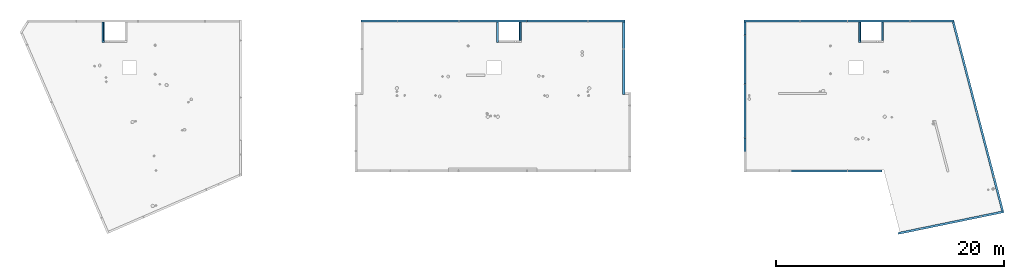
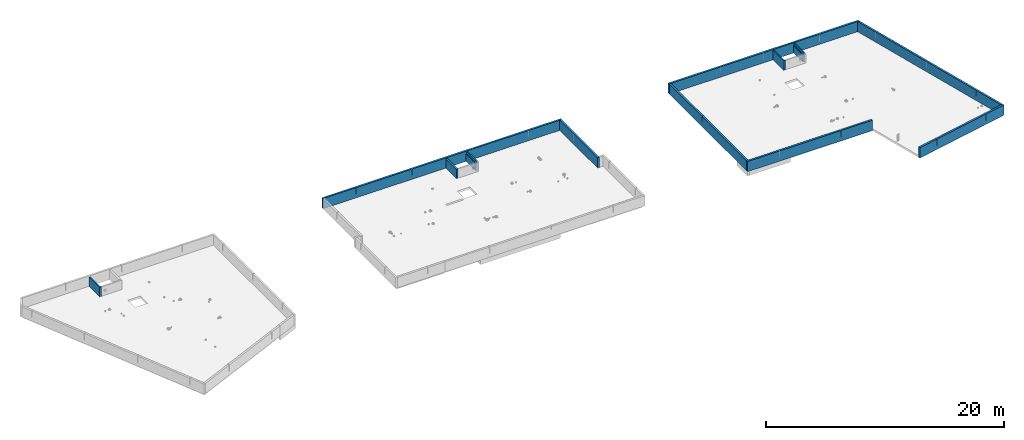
# One storey, part 2 of 12: 12 walls.
"""IFC2X3 building model written with IfcOpenShell, lengths in centimetres."""

from ifc_helpers import new_model, entity, si_unit, converted_unit, derived_unit, direction, frame, frame_2d, origin, place, context, subcontext, project, spatial, polyline, rectangle, outline, extrude, clip, bounded_halfspace, faceted_brep, material, layer, layer_set, layer_usage, type_object, element, save


model = new_model("IFC2X3")

# Units and contexts
model_context = context("Model", 3, precision=0.001, world=origin(), true_north=direction((6.12303176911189e-17, 1.0)))
body_context = subcontext(model_context, "Body", "Model", "MODEL_VIEW")
ifc_project = project(units=[si_unit("LENGTHUNIT", "METRE", prefix="CENTI"), si_unit("AREAUNIT", "SQUARE_METRE"), si_unit("VOLUMEUNIT", "CUBIC_METRE"), converted_unit("PLANEANGLEUNIT", "DEGREE", entity("IfcRatioMeasure", 0.0174532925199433), si_unit("PLANEANGLEUNIT", "RADIAN"), dimensions=[0, 0, 0, 0, 0, 0, 0]), si_unit("MASSUNIT", "GRAM", prefix="KILO"), derived_unit("MASSDENSITYUNIT", [(si_unit("MASSUNIT", "GRAM", prefix="KILO"), 1), (si_unit("LENGTHUNIT", "METRE"), -3)]), si_unit("TIMEUNIT", "SECOND"), si_unit("FREQUENCYUNIT", "HERTZ"), si_unit("THERMODYNAMICTEMPERATUREUNIT", "DEGREE_CELSIUS"), derived_unit("THERMALTRANSMITTANCEUNIT", [(si_unit("MASSUNIT", "GRAM", prefix="KILO"), 1), (si_unit("THERMODYNAMICTEMPERATUREUNIT", "KELVIN"), -1), (si_unit("TIMEUNIT", "SECOND"), -3)]), derived_unit("VOLUMETRICFLOWRATEUNIT", [(si_unit("LENGTHUNIT", "METRE"), 3), (si_unit("TIMEUNIT", "SECOND"), -1)]), si_unit("ELECTRICCURRENTUNIT", "AMPERE"), si_unit("ELECTRICVOLTAGEUNIT", "VOLT"), si_unit("POWERUNIT", "WATT"), si_unit("FORCEUNIT", "NEWTON"), si_unit("ILLUMINANCEUNIT", "LUX"), si_unit("LUMINOUSFLUXUNIT", "LUMEN"), si_unit("LUMINOUSINTENSITYUNIT", "CANDELA"), derived_unit("USERDEFINED", [(si_unit("MASSUNIT", "GRAM", prefix="KILO"), -1), (si_unit("LENGTHUNIT", "METRE"), -2), (si_unit("TIMEUNIT", "SECOND"), 3), (si_unit("LUMINOUSFLUXUNIT", "LUMEN"), 1)]), derived_unit("LINEARVELOCITYUNIT", [(si_unit("LENGTHUNIT", "METRE"), 1), (si_unit("TIMEUNIT", "SECOND"), -1)]), si_unit("PRESSUREUNIT", "PASCAL"), derived_unit("USERDEFINED", [(si_unit("LENGTHUNIT", "METRE"), -2), (si_unit("MASSUNIT", "GRAM", prefix="KILO"), 1), (si_unit("TIMEUNIT", "SECOND"), -2)])], contexts=[model_context])

# Site, building, storey
site_placement = place(None, origin())
site = spatial("IfcSite", under=ifc_project, at=site_placement, Name="Default", CompositionType="ELEMENT")
building_placement = place(site_placement, origin())
building = spatial("IfcBuilding", under=site, at=building_placement, Name="CAGE 03", CompositionType="ELEMENT")
storey_placement = place(building_placement, frame((0.0, 0.0, 1690.0)))
storey = spatial("IfcBuildingStorey", under=building, at=storey_placement, Name="R+6", CompositionType="ELEMENT", Elevation=1690.0)

# Walls
ifc_material_1 = material(Name="Béton, C25/30")
ifc_layer_1 = layer(ifc_material_1, 18.0)
ifc_layer_set_1 = layer_set([ifc_layer_1], Name="Mur de base:Voile BA 18")
ifc_layer_usage_1 = layer_usage(ifc_layer_set_1, "AXIS2", "POSITIVE", -9.0)
wall_type_1 = type_object("IfcWallType", Name="Mur de base:Voile BA 18", PredefinedType="STANDARD", material=ifc_layer_set_1)
wall_1_placement = place(storey_placement, frame((8239.36582014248, 5119.6606660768, 0.0), z_axis=(0.0, 0.0, 1.0), x_axis=(-1.0, 0.0, 0.0)))
element("IfcWallStandardCase", 1, at=wall_1_placement, inside=storey, type_object=wall_type_1, material=ifc_layer_usage_1, Name="Mur de base:Voile BA 18", ObjectType="Mur de base:Voile BA 18", context=body_context, shape_type="Clipping", body=[
    clip(clip(clip(clip(extrude(rectangle(XDim=2316.0, YDim=17.9999999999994, at=frame_2d((1158.0, 2.39808173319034e-14), x_axis=(-1.0, 0.0))), origin(), (0.0, 0.0, 1.0), 105.0), bounded_halfspace(frame((1994.0, -9.0, 40.0), z_axis=(0.0, 0.0, -1.0), x_axis=(0.0, -1.0, 0.0)), True, frame((1994.0, -9.0, 40.0), z_axis=(0.0, 0.0, -1.0), x_axis=(0.0, -1.0, 0.0)), polyline([(0.0, 0.0), (0.0, 2.0), (-18.0, 2.0), (-18.0, 0.0), (0.0, 0.0)]))), bounded_halfspace(frame((1456.0, -9.0, 40.0), z_axis=(0.0, 0.0, -1.0), x_axis=(0.0, -1.0, 0.0)), True, frame((1456.0, -9.0, 40.0), z_axis=(0.0, 0.0, -1.0), x_axis=(0.0, -1.0, 0.0)), polyline([(0.0, 0.0), (0.0, 2.0), (-18.0, 2.0), (-18.0, 0.0), (0.0, 0.0)]))), bounded_halfspace(frame((862.0, -9.0, 40.0), z_axis=(0.0, 0.0, -1.0), x_axis=(0.0, -1.0, 0.0)), True, frame((862.0, -9.0, 40.0), z_axis=(0.0, 0.0, -1.0), x_axis=(0.0, -1.0, 0.0)), polyline([(0.0, 0.0), (0.0, 2.0), (-18.0, 2.0), (-18.0, 0.0), (0.0, 0.0)]))), bounded_halfspace(frame((323.0, -9.0, 40.0), z_axis=(0.0, 0.0, -1.0), x_axis=(0.0, -1.0, 0.0)), True, frame((323.0, -9.0, 40.0), z_axis=(0.0, 0.0, -1.0), x_axis=(0.0, -1.0, 0.0)), polyline([(0.0, 0.0), (0.0, 2.0), (-18.0, 2.0), (-18.0, 0.0), (0.0, 0.0)]))),
])
ifc_layer_usage_2 = layer_usage(ifc_layer_set_1, "AXIS2", "POSITIVE", -9.0)
wall_2_placement = place(storey_placement, frame((8230.36582014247, 4474.6606660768, 0.0), z_axis=(0.0, 0.0, 1.0), x_axis=(0.0, 1.0, 0.0)))
element("IfcWallStandardCase", 2, at=wall_2_placement, inside=storey, type_object=wall_type_1, material=ifc_layer_usage_2, Name="Mur de base:Voile BA 18", ObjectType="Mur de base:Voile BA 18", context=body_context, shape_type="Clipping", body=[
    clip(extrude(rectangle(XDim=636.000000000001, YDim=17.9999999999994, at=frame_2d((318.0, 9.41469124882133e-14), x_axis=(-1.0, 0.0))), origin(), (0.0, 0.0, 1.0), 105.0), bounded_halfspace(frame((400.499999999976, -9.0, 40.0), z_axis=(0.0, 0.0, -1.0), x_axis=(0.0, -1.0, 0.0)), True, frame((400.499999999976, -9.0, 40.0), z_axis=(0.0, 0.0, -1.0), x_axis=(0.0, -1.0, 0.0)), polyline([(0.0, 0.0), (0.0, 2.0), (-18.0, 2.0), (-18.0, 0.0), (0.0, 0.0)]))),
])
ifc_layer_usage_3 = layer_usage(ifc_layer_set_1, "AXIS2", "POSITIVE", -9.0)
wall_3_placement = place(storey_placement, frame((9284.36582014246, 3805.6606660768, 0.0)))
element("IfcWallStandardCase", 3, at=wall_3_placement, inside=storey, type_object=wall_type_1, material=ifc_layer_usage_3, Name="Mur de base:Voile BA 18", ObjectType="Mur de base:Voile BA 18", context=body_context, shape_type="Clipping", body=[
    clip(clip(extrude(rectangle(XDim=1212.65851242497, YDim=18.0000000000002, at=frame_2d((606.329256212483, -8.17124146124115e-14), x_axis=(-1.0, 0.0))), origin(), (0.0, 0.0, 1.0), 105.0), bounded_halfspace(frame((909.0, 9.0, 40.0), z_axis=(0.0, 0.0, -1.0), x_axis=(0.0, 1.0, 0.0)), True, frame((909.0, 9.0, 40.0), z_axis=(0.0, 0.0, -1.0), x_axis=(0.0, 1.0, 0.0)), polyline([(0.0, 0.0), (0.0, 2.0), (-18.0, 2.0), (-18.0, 0.0), (0.0, 0.0)]))), bounded_halfspace(frame((309.0, 9.0, 40.0), z_axis=(0.0, 0.0, -1.0), x_axis=(0.0, 1.0, 0.0)), True, frame((309.0, 9.0, 40.0), z_axis=(0.0, 0.0, -1.0), x_axis=(0.0, 1.0, 0.0)), polyline([(0.0, 0.0), (0.0, 2.0), (-18.0, 2.0), (-18.0, 0.0), (0.0, 0.0)]))),
])
ifc_layer_usage_4 = layer_usage(ifc_layer_set_1, "AXIS2", "POSITIVE", -9.0)
wall_4_placement = place(storey_placement, frame((11131.0782797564, 5119.66066607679, 0.0), z_axis=(0.0, 0.0, 1.0), x_axis=(-1.0, 0.0, 0.0)))
element("IfcWallStandardCase", 4, at=wall_4_placement, inside=storey, type_object=wall_type_1, material=ifc_layer_usage_4, Name="Mur de base:Voile BA 18", ObjectType="Mur de base:Voile BA 18", context=body_context, shape_type="Clipping", body=[
    clip(clip(clip(extrude(outline(polyline([(1846.71245961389, -9.0), (1846.71245961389, 9.0), (1828.71245961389, 9.0), (1111.71245961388, 9.0), (838.712459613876, 9.0), (820.712459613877, 9.0), (640.712459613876, 9.0), (631.712459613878, 9.0), (622.712459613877, 9.0), (18.603690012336, 9.0), (0.0, 9.0), (4.70077462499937, -9.0), (631.712459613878, -9.0), (1111.71245961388, -9.0), (1846.71245961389, -9.0)])), origin(), (0.0, 0.0, 1.0), 105.0), bounded_halfspace(frame((1354.7124596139, -9.0, 40.0), z_axis=(0.0, 0.0, -1.0), x_axis=(0.0, -1.0, 0.0)), True, frame((1354.7124596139, -9.0, 40.0), z_axis=(0.0, 0.0, -1.0), x_axis=(0.0, -1.0, 0.0)), polyline([(0.0, 0.0), (0.0, 2.0), (-18.0, 2.0), (-18.0, 0.0), (0.0, 0.0)]))), bounded_halfspace(frame((937.712459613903, -9.0, 40.0), z_axis=(0.0, 0.0, -1.0), x_axis=(0.0, -1.0, 0.0)), True, frame((937.712459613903, -9.0, 40.0), z_axis=(0.0, 0.0, -1.0), x_axis=(0.0, -1.0, 0.0)), polyline([(0.0, 0.0), (0.0, 2.0), (-18.0, 2.0), (-18.0, 0.0), (0.0, 0.0)]))), bounded_halfspace(frame((390.712459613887, -9.0, 40.0), z_axis=(0.0, 0.0, -1.0), x_axis=(0.0, -1.0, 0.0)), True, frame((390.712459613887, -9.0, 40.0), z_axis=(0.0, 0.0, -1.0), x_axis=(0.0, -1.0, 0.0)), polyline([(0.0, 0.0), (0.0, 2.0), (-18.0, 2.0), (-18.0, 0.0), (0.0, 0.0)]))),
])
ifc_layer_usage_5 = layer_usage(ifc_layer_set_1, "AXIS2", "POSITIVE", -9.0)
wall_5_placement = place(storey_placement, frame((9293.36582014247, 5110.66066607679, 0.0), z_axis=(0.0, 0.0, 1.0), x_axis=(0.0, -1.0, 0.0)))
element("IfcWallStandardCase", 5, at=wall_5_placement, inside=storey, type_object=wall_type_1, material=ifc_layer_usage_5, Name="Mur de base:Voile BA 18", ObjectType="Mur de base:Voile BA 18", context=body_context, shape_type="Clipping", body=[
    clip(clip(clip(extrude(rectangle(XDim=1296.0, YDim=17.9999999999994, at=frame_2d((648.0, 2.1316282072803e-13), x_axis=(-1.0, 0.0))), origin(), (0.0, 0.0, 1.0), 105.0), bounded_halfspace(frame((1014.0, 9.0, 40.0), z_axis=(0.0, 0.0, -1.0), x_axis=(0.0, 1.0, 0.0)), True, frame((1014.0, 9.0, 40.0), z_axis=(0.0, 0.0, -1.0), x_axis=(0.0, 1.0, 0.0)), polyline([(0.0, 0.0), (0.0, 2.0), (-18.0, 2.0), (-18.0, 0.0), (0.0, 0.0)]))), bounded_halfspace(frame((544.0, 9.0, 40.0), z_axis=(0.0, 0.0, -1.0), x_axis=(0.0, 1.0, 0.0)), True, frame((544.0, 9.0, 40.0), z_axis=(0.0, 0.0, -1.0), x_axis=(0.0, 1.0, 0.0)), polyline([(0.0, 0.0), (0.0, 2.0), (-18.0, 2.0), (-18.0, 0.0), (0.0, 0.0)]))), bounded_halfspace(frame((115.0, 9.0, 40.0), z_axis=(0.0, 0.0, -1.0), x_axis=(0.0, 1.0, 0.0)), True, frame((115.0, 9.0, 40.0), z_axis=(0.0, 0.0, -1.0), x_axis=(0.0, 1.0, 0.0)), polyline([(0.0, 0.0), (0.0, 2.0), (-18.0, 2.0), (-18.0, 0.0), (0.0, 0.0)]))),
])
ifc_layer_usage_6 = layer_usage(ifc_layer_set_1, "AXIS2", "NEGATIVE", 9.0)
wall_6_placement = place(storey_placement, frame((11554.520882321, 3453.61460927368, 0.0), z_axis=(0.0, 0.0, 1.0), x_axis=(-0.252679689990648, 0.967549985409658, 0.0)))
element("IfcWallStandardCase", 6, at=wall_6_placement, inside=storey, type_object=wall_type_1, material=ifc_layer_usage_6, Name="Mur de base:Voile BA 18", ObjectType="Mur de base:Voile BA 18", context=body_context, shape_type="Clipping", body=[
    clip(clip(clip(extrude(outline(polyline([(1710.27023362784, -9.0), (1714.97100825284, 9.0), (0.940291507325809, 9.0), (0.0, -9.0), (1710.27023362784, -9.0)])), origin(), (0.0, 0.0, 1.0), 105.0), bounded_halfspace(frame((1496.4684546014, -9.0, 40.0), z_axis=(0.0, 0.0, -1.0), x_axis=(0.0, -1.0, 0.0)), True, frame((1496.4684546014, -9.0, 40.0), z_axis=(0.0, 0.0, -1.0), x_axis=(0.0, -1.0, 0.0)), polyline([(0.0, 0.0), (0.0, 2.0), (-18.0, 2.0), (-18.0, 0.0), (0.0, 0.0)]))), bounded_halfspace(frame((894.468454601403, -9.0, 40.0), z_axis=(0.0, 0.0, -1.0), x_axis=(0.0, -1.0, 0.0)), True, frame((894.468454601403, -9.0, 40.0), z_axis=(0.0, 0.0, -1.0), x_axis=(0.0, -1.0, 0.0)), polyline([(0.0, 0.0), (0.0, 2.0), (-18.0, 2.0), (-18.0, 0.0), (0.0, 0.0)]))), bounded_halfspace(frame((303.468454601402, -9.0, 40.0), z_axis=(0.0, 0.0, -1.0), x_axis=(0.0, -1.0, 0.0)), True, frame((303.468454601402, -9.0, 40.0), z_axis=(0.0, 0.0, -1.0), x_axis=(0.0, -1.0, 0.0)), polyline([(0.0, 0.0), (0.0, 2.0), (-18.0, 2.0), (-18.0, 0.0), (0.0, 0.0)]))),
])
ifc_material_2 = material(Name="Béton, panneaux préfa 30/37")
ifc_layer_2 = layer(ifc_material_2, 5.5)
ifc_layer_3 = layer(ifc_material_1, 7.0)
ifc_layer_4 = layer(ifc_material_2, 5.5)
ifc_layer_set_2 = layer_set([ifc_layer_2, ifc_layer_3, ifc_layer_4], Name="Mur de base:premur 18")
ifc_layer_usage_7 = layer_usage(ifc_layer_set_2, "AXIS2", "POSITIVE", -9.0)
wall_type_2 = type_object("IfcWallType", Name="Mur de base:premur 18", PredefinedType="NOTDEFINED")
wall_7_placement = place(storey_placement, frame((10637.7468620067, 3255.95402323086, 0.0), z_axis=(0.0, 0.0, 1.0), x_axis=(0.979414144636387, 0.201861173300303, 0.0)))
element("IfcWallStandardCase", 7, at=wall_7_placement, inside=storey, type_object=wall_type_2, material=ifc_layer_usage_7, Name="Mur de base:premur 18", ObjectType="Mur de base:premur 18", context=body_context, shape_type="Clipping", body=[
    clip(clip(extrude(rectangle(XDim=946.789185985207, YDim=18.0, at=frame_2d((473.394592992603, -1.36779476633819e-13), x_axis=(-1.0, 0.0))), origin(), (0.0, 0.0, 1.0), 105.0), bounded_halfspace(frame((745.789185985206, 9.0, 40.0), z_axis=(0.0, 0.0, -1.0), x_axis=(0.0, 1.0, 0.0)), True, frame((745.789185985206, 9.0, 40.0), z_axis=(0.0, 0.0, -1.0), x_axis=(0.0, 1.0, 0.0)), polyline([(0.0, 0.0), (0.0, 2.0), (-18.0, 2.0), (-18.0, 0.0), (0.0, 0.0)]))), bounded_halfspace(frame((195.789185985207, 9.0, 40.0), z_axis=(0.0, 0.0, -1.0), x_axis=(0.0, 1.0, 0.0)), True, frame((195.789185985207, 9.0, 40.0), z_axis=(0.0, 0.0, -1.0), x_axis=(0.0, 1.0, 0.0)), polyline([(0.0, 0.0), (0.0, 2.0), (-18.0, 2.0), (-18.0, 0.0), (0.0, 0.0)]))),
])
ifc_layer_usage_8 = layer_usage(ifc_layer_set_2, "AXIS2", "POSITIVE", -9.0)
wall_8_placement = place(storey_placement, frame((7124.36582014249, 5110.6606660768, 0.0), z_axis=(0.0, 0.0, 1.0), x_axis=(0.0, -1.0, 0.0)))
element("IfcWallStandardCase", 8, at=wall_8_placement, inside=storey, type_object=wall_type_2, material=ifc_layer_usage_8, Name="Mur de base:premur 18", ObjectType="Mur de base:premur 18", context=body_context, shape_type="SweptSolid", body=[
    extrude(rectangle(XDim=178.0, YDim=17.9999999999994, at=frame_2d((89.0000000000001, -1.91846538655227e-13), x_axis=(-1.0, 0.0))), origin(), (0.0, 0.0, 1.0), 95.0000000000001),
])
ifc_layer_usage_9 = layer_usage(ifc_layer_set_2, "AXIS2", "POSITIVE", -9.0)
wall_9_placement = place(storey_placement, frame((7322.36582014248, 4950.6606660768, 0.0), z_axis=(0.0, 0.0, 1.0), x_axis=(0.0, 1.0, 0.0)))
element("IfcWallStandardCase", 9, at=wall_9_placement, inside=storey, type_object=wall_type_2, material=ifc_layer_usage_9, Name="Mur de base:premur 18", ObjectType="Mur de base:premur 18", context=body_context, shape_type="Clipping", body=[
    clip(clip(extrude(rectangle(XDim=159.999999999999, YDim=17.9999999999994, at=frame_2d((79.9999999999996, 1.77635683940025e-13), x_axis=(-1.0, 0.0))), origin(), (0.0, 0.0, 1.0), 95.0000000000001), bounded_halfspace(frame((0.0, 3.50000000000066, 75.0), z_axis=(0.0, 0.0, -1.0), x_axis=(-1.0, 0.0, 0.0)), True, frame((0.0, 3.50000000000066, 75.0), z_axis=(0.0, 0.0, -1.0), x_axis=(-1.0, 0.0, 0.0)), polyline([(0.0, 0.0), (0.0, 5.49999999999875), (-160.0, 5.49999999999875), (-160.0, 0.0), (0.0, 0.0)]))), bounded_halfspace(frame((160.0, 3.50000000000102, 75.0), z_axis=(0.0, -1.0, 0.0), x_axis=(0.0, 0.0, 1.0)), True, frame((160.0, 3.50000000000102, 75.0), z_axis=(0.0, -1.0, 0.0), x_axis=(0.0, 0.0, 1.0)), polyline([(0.0, 0.0), (20.0, 0.0), (20.0, 160.0), (0.0, 160.0), (0.0, 0.0)]))),
])
wall_10_placement = place(storey_placement, frame((10301.3658201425, 5110.66066607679, 0.0), z_axis=(0.0, 0.0, 1.0), x_axis=(0.0, -1.0, 0.0)))
element("IfcWall", 10, at=wall_10_placement, inside=storey, type_object=wall_type_2, Name="Mur de base:premur 18", ObjectType="Mur de base:premur 18", context=body_context, shape_type="Brep", body=[
    faceted_brep([(0.0, -9.0, 0.0), (172.5, -9.0, 0.0), (178.0, -9.0, 0.0), (178.0, -9.0, 95.0), (0.0, -9.0, 95.0), (178.0, 9.0, 0.0), (172.5, 9.0, 0.0), (160.0, 9.0, 0.0), (0.0, 9.0, 0.0), (0.0, 9.0, 75.0), (160.0, 9.0, 75.0), (165.5, 9.0, 75.0), (165.5, 9.0, 95.0), (178.0, 9.0, 95.0), (165.5, 3.49999999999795, 95.0), (0.0, 3.4999999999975, 95.0), (0.0, 3.4999999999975, 75.0), (165.5, 3.49999999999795, 75.0)], [[[0, 1, 2, 3, 4]], [[5, 6, 7, 8, 9, 10, 11, 12, 13]], [[2, 1, 0, 8, 7, 6, 5]], [[4, 3, 13, 12, 14, 15]], [[3, 2, 5, 13]], [[0, 4, 15, 16, 9, 8]], [[16, 17, 11, 10, 9]], [[17, 14, 12, 11]], [[17, 16, 15, 14]]]),
])
ifc_layer_usage_10 = layer_usage(ifc_layer_set_2, "AXIS2", "POSITIVE", -9.0)
wall_11_placement = place(storey_placement, frame((10499.3658201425, 4950.66066607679, 0.0), z_axis=(0.0, 0.0, 1.0), x_axis=(0.0, 1.0, 0.0)))
element("IfcWallStandardCase", 11, at=wall_11_placement, inside=storey, type_object=wall_type_2, material=ifc_layer_usage_10, Name="Mur de base:premur 18", ObjectType="Mur de base:premur 18", context=body_context, shape_type="Clipping", body=[
    clip(clip(extrude(rectangle(XDim=159.999999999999, YDim=17.9999999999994, at=frame_2d((79.9999999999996, -6.88338275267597e-13), x_axis=(-1.0, 0.0))), origin(), (0.0, 0.0, 1.0), 95.0000000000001), bounded_halfspace(frame((0.0, 3.4999999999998, 75.0), z_axis=(0.0, 0.0, -1.0), x_axis=(-1.0, 0.0, 0.0)), True, frame((0.0, 3.4999999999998, 75.0), z_axis=(0.0, 0.0, -1.0), x_axis=(-1.0, 0.0, 0.0)), polyline([(0.0, 0.0), (0.0, 5.50000000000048), (-160.0, 5.49999999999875), (-160.0, 0.0), (0.0, 0.0)]))), bounded_halfspace(frame((160.0, 3.50000000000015, 75.0), z_axis=(0.0, -1.0, 0.0), x_axis=(0.0, 0.0, 1.0)), True, frame((160.0, 3.50000000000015, 75.0), z_axis=(0.0, -1.0, 0.0), x_axis=(0.0, 0.0, 1.0)), polyline([(0.0, 0.0), (20.0, 0.0), (20.0, 160.0), (0.0, 160.0), (0.0, 0.0)]))),
])
wall_12_placement = place(storey_placement, frame((3663.36582014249, 5110.66066607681, 0.0), z_axis=(0.0, 0.0, 1.0), x_axis=(0.0, -1.0, 0.0)))
element("IfcWall", 12, at=wall_12_placement, inside=storey, type_object=wall_type_2, Name="Mur de base:premur 18", ObjectType="Mur de base:premur 18", context=body_context, shape_type="Brep", body=[
    faceted_brep([(0.0, -9.0, 0.0), (178.0, -9.0, 0.0), (178.0, -9.0, 95.0), (0.0, -9.0, 95.0), (178.0, 9.0, 0.0), (160.0, 9.0, 0.0), (0.0, 9.0, 0.0), (0.0, 9.0, 75.0), (160.0, 9.0, 75.0), (165.5, 9.0, 75.0), (165.5, 9.0, 95.0), (178.0, 9.0, 95.0), (0.0, -3.50000000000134, 0.0), (165.5, 3.49999999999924, 95.0), (0.0, 3.4999999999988, 95.0), (0.0, 3.4999999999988, 75.0), (165.5, 3.49999999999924, 75.0)], [[[0, 1, 2, 3]], [[4, 5, 6, 7, 8, 9, 10, 11]], [[1, 0, 12, 6, 5, 4]], [[3, 2, 11, 10, 13, 14]], [[2, 1, 4, 11]], [[0, 3, 14, 15, 7, 6, 12]], [[15, 16, 9, 8, 7]], [[16, 13, 10, 9]], [[16, 15, 14, 13]]]),
])

save(model, "model.ifc")
